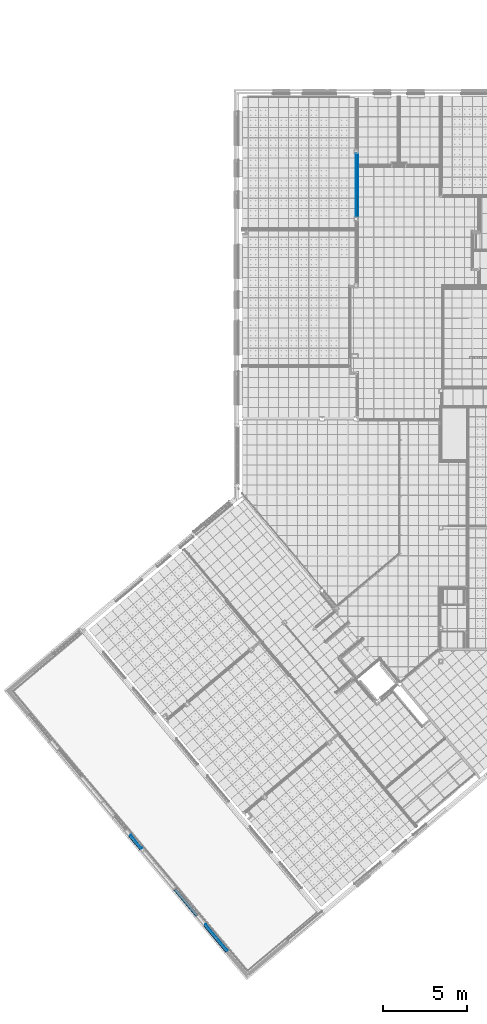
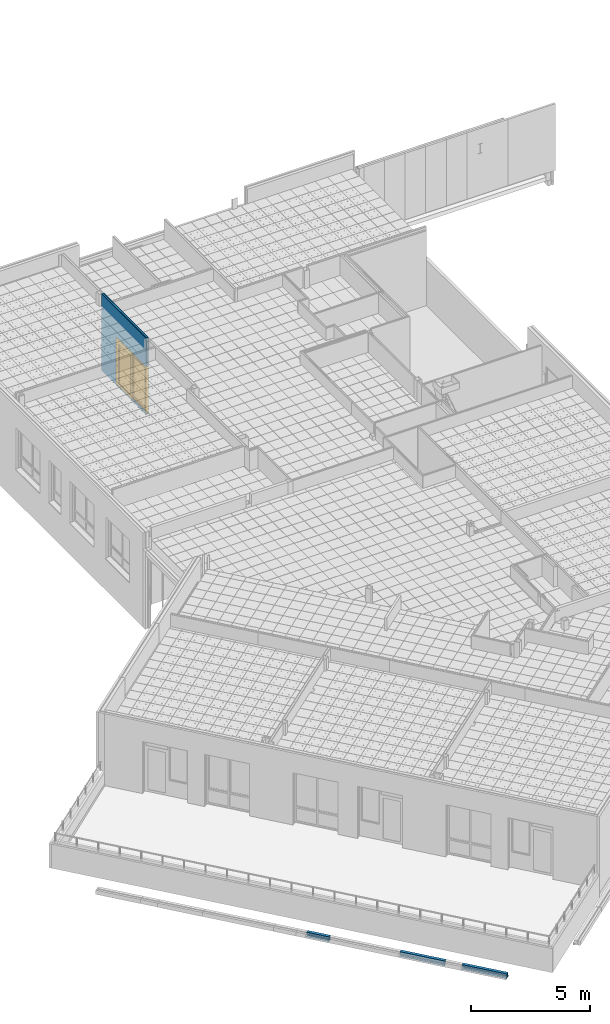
# One storey, part 20 of 321: 15 building element parts, 1 door, 1 opening, 4 elements without a shape of their own.
"""IFC2X3 building model written with IfcOpenShell, lengths in millimetres."""

from ifc_helpers import new_model, entity, si_unit, converted_unit, derived_unit, money_unit, direction, frame, origin_with_axes, place, context, subcontext, project, spatial, open_shell, faceted_brep, surface_model, source, transform, mapped, material, type_object, type_shapes, element, fill, aggregate, save


model = new_model("IFC2X3")

# Units and contexts
model_context = context("Model", 3, precision=0.01, world=origin_with_axes(), true_north=direction((0.0, 1.0)))
plan_context = context("Plan", 3, precision=0.01, world=origin_with_axes(), true_north=direction((0.0, 1.0)))
body_context = subcontext(model_context, "Body", "Model", "MODEL_VIEW")
ifc_project = project(units=[si_unit("LENGTHUNIT", "METRE", prefix="MILLI"), si_unit("AREAUNIT", "SQUARE_METRE"), si_unit("VOLUMEUNIT", "CUBIC_METRE"), converted_unit("PLANEANGLEUNIT", "DEGREE", entity("IfcPlaneAngleMeasure", 0.0174532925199), si_unit("PLANEANGLEUNIT", "RADIAN"), dimensions=[0, 0, 0, 0, 0, 0, 0]), money_unit("EUR"), converted_unit("TIMEUNIT", "Year", entity("IfcTimeMeasure", 31556926.0), si_unit("TIMEUNIT", "SECOND"), dimensions=[0, 0, 1, 0, 0, 0, 0]), si_unit("MASSUNIT", "GRAM", prefix="KILO"), si_unit("THERMODYNAMICTEMPERATUREUNIT", "DEGREE_CELSIUS"), si_unit("LUMINOUSINTENSITYUNIT", "LUMEN"), si_unit("ENERGYUNIT", "JOULE", prefix="MEGA"), derived_unit("THERMALCONDUCTANCEUNIT", [(si_unit("POWERUNIT", "WATT"), 1), (si_unit("LENGTHUNIT", "METRE"), -1), (si_unit("THERMODYNAMICTEMPERATUREUNIT", "KELVIN"), -1)]), derived_unit("SPECIFICHEATCAPACITYUNIT", [(si_unit("ENERGYUNIT", "JOULE"), 1), (si_unit("MASSUNIT", "GRAM", prefix="KILO"), -1), (si_unit("THERMODYNAMICTEMPERATUREUNIT", "KELVIN"), -1)]), derived_unit("MASSDENSITYUNIT", [(si_unit("MASSUNIT", "GRAM", prefix="KILO"), 1), (si_unit("VOLUMEUNIT", "CUBIC_METRE"), -1)])], contexts=[model_context, plan_context])

# Site, building, storey
site_placement = place(None, origin_with_axes())
site = spatial("IfcSite", under=ifc_project, at=site_placement, Name="Fortuinstraat Woensdrecht", CompositionType="ELEMENT")
building_placement = place(site_placement, origin_with_axes())
building = spatial("IfcBuilding", under=site, at=building_placement, Name="IKC Fortuna", CompositionType="ELEMENT")
storey_placement = place(building_placement, frame((0.0, 0.0, 4000.0), z_axis=(0.0, 0.0, 1.0), x_axis=(1.0, 0.0, 0.0)))
storey = spatial("IfcBuildingStorey", under=building, at=storey_placement, Name="01 eerste verdieping", CompositionType="ELEMENT", Elevation=4000.0)

# Door
door_style = type_object("IfcDoorStyle", Name="DSn 25", ConstructionType="NOTDEFINED", OperationType="USERDEFINED", ParameterTakesPrecedence=False, Sizeable=False)
shared_shape = source(origin_with_axes(), body_context, "Body", "SurfaceModel", [
    faceted_brep([(-1242.5, 0.0, 0.0), (-1175.5, 0.0, 0.0), (-1175.5, -139.0, 0.0), (-1242.5, -139.0, 0.0), (-1242.5, 0.0, 2300.0), (-1175.5, 0.0, 2300.0), (-1175.5, -139.0, 2300.0), (-1242.5, -139.0, 2300.0)], [[[0, 1, 2, 3]], [[0, 4, 5, 1]], [[1, 5, 6, 2]], [[3, 2, 6, 7]], [[4, 0, 3, 7]], [[5, 4, 7, 6]]]),
    faceted_brep([(1242.5, 0.0, 0.0), (1242.5, 0.0, 2300.0), (1242.5, -139.0, 2300.0), (1242.5, -139.0, 0.0), (1175.5, 0.0, 0.0), (1175.5, 0.0, 2300.0), (1175.5, -139.0, 2300.0), (1175.5, -139.0, 0.0)], [[[0, 1, 2, 3]], [[0, 4, 5, 1]], [[1, 5, 6, 2]], [[3, 2, 6, 7]], [[4, 0, 3, 7]], [[5, 4, 7, 6]]]),
    faceted_brep([(-1242.5, 0.0, 2367.0), (-1242.5, 0.0, 2300.0), (-1242.5, -139.0, 2300.0), (-1242.5, -139.0, 2367.0), (1242.5, 0.0, 2367.0), (1242.5, 0.0, 2300.0), (1175.5, 0.0, 2300.0), (-1175.5, 0.0, 2300.0), (-1175.5, -139.0, 2300.0), (1175.5, -139.0, 2300.0), (1242.5, -139.0, 2300.0), (1242.5, -139.0, 2367.0)], [[[0, 1, 2, 3]], [[0, 4, 5, 6, 7, 1]], [[1, 7, 8, 2]], [[3, 2, 8, 9, 10, 11]], [[4, 0, 3, 11]], [[5, 4, 11, 10]], [[6, 5, 10, 9]], [[7, 6, 9, 8]]]),
    faceted_brep([(1175.5, 0.0, 139.0), (1175.5, -64.5, 139.0), (1036.5, -64.5, 139.0), (1036.5, 0.0, 139.0), (1175.5, 0.0, 2161.0), (1175.5, -64.5, 2161.0), (1036.5, -64.5, 2161.0), (1036.5, 0.0, 2161.0)], [[[0, 1, 2, 3]], [[4, 5, 1, 0]], [[1, 5, 6, 2]], [[3, 2, 6, 7]], [[0, 3, 7, 4]], [[7, 6, 5, 4]]]),
    faceted_brep([(-69.5, 0.0, 139.0), (-69.5, -64.5, 139.0), (-69.5, -64.5, 2161.0), (-69.5, 0.0, 2161.0), (69.5, 0.0, 139.0), (69.5, -64.5, 139.0), (69.5, -64.5, 2161.0), (69.5, 0.0, 2161.0)], [[[0, 1, 2, 3]], [[4, 5, 1, 0]], [[1, 5, 6, 2]], [[3, 2, 6, 7]], [[0, 3, 7, 4]], [[7, 6, 5, 4]]]),
    faceted_brep([(1175.5, 0.0, 0.0), (1175.5, -64.5, 0.0), (-69.5, -64.5, 0.0), (-69.5, 0.0, 0.0), (1175.5, 0.0, 139.0), (1175.5, -64.5, 139.0), (1036.5, -64.5, 139.0), (69.5, -64.5, 139.0), (-69.5, -64.5, 139.0), (-69.5, 0.0, 139.0), (69.5, 0.0, 139.0), (1036.5, 0.0, 139.0)], [[[0, 1, 2, 3]], [[4, 5, 1, 0]], [[1, 5, 6, 7, 8, 2]], [[3, 2, 8, 9]], [[0, 3, 9, 10, 11, 4]], [[11, 6, 5, 4]], [[10, 7, 6, 11]], [[9, 8, 7, 10]]]),
    faceted_brep([(1175.5, 0.0, 2300.0), (1175.5, -64.5, 2300.0), (1175.5, -64.5, 2161.0), (1175.5, 0.0, 2161.0), (-69.5, 0.0, 2300.0), (-69.5, -64.5, 2300.0), (-69.5, -64.5, 2161.0), (69.5, -64.5, 2161.0), (1036.5, -64.5, 2161.0), (1036.5, 0.0, 2161.0), (69.5, 0.0, 2161.0), (-69.5, 0.0, 2161.0)], [[[0, 1, 2, 3]], [[4, 5, 1, 0]], [[1, 5, 6, 7, 8, 2]], [[3, 2, 8, 9]], [[0, 3, 9, 10, 11, 4]], [[11, 6, 5, 4]], [[10, 7, 6, 11]], [[9, 8, 7, 10]]]),
    surface_model("IfcShellBasedSurfaceModel", [(1036.5, -26.25, 139.0), (69.5, -26.25, 139.0), (69.5, -26.25, 2161.0), (1036.5, -26.25, 2161.0)], [open_shell([[[0, 1, 2, 3]]])]),
    surface_model("IfcShellBasedSurfaceModel", [(1036.5, -38.25, 139.0), (1036.5, -38.25, 2161.0), (69.5, -38.25, 2161.0), (69.5, -38.25, 139.0)], [open_shell([[[0, 1, 2, 3]]])]),
    faceted_brep([(-1110.5, -134.0, 965.0), (-1110.5, -134.0, 1035.0), (-1110.5, -144.0, 1035.0), (-1110.5, -144.0, 965.0), (-1140.5, -134.0, 965.0), (-1140.5, -134.0, 1035.0), (-1140.5, -144.0, 1035.0), (-1140.5, -144.0, 965.0)], [[[0, 1, 2, 3]], [[0, 4, 5, 1]], [[1, 5, 6, 2]], [[3, 2, 6, 7]], [[4, 0, 3, 7]], [[5, 4, 7, 6]]]),
    faceted_brep([(-1124.13436775, -144.0, 1006.86549696), (-1122.82121597, -144.0, 1006.46715673), (-1121.61100837, -144.0, 1005.82028729), (-1120.55025253, -144.0, 1004.94974747), (-1119.67971271, -144.0, 1003.88899163), (-1119.03284327, -144.0, 1002.67878403), (-1118.63450304, -144.0, 1001.36563225), (-1118.5, -144.0, 1000.0), (-1118.63450304, -144.0, 998.634367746), (-1119.03284327, -144.0, 997.321215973), (-1119.67971271, -144.0, 996.111008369), (-1120.55025253, -144.0, 995.050252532), (-1121.61100837, -144.0, 994.179712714), (-1122.82121597, -144.0, 993.532843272), (-1124.13436775, -144.0, 993.134503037), (-1125.5, -144.0, 993.0), (-1126.86563225, -144.0, 993.134503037), (-1128.17878403, -144.0, 993.532843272), (-1129.38899163, -144.0, 994.179712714), (-1130.44974747, -144.0, 995.050252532), (-1131.32028729, -144.0, 996.111008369), (-1131.96715673, -144.0, 997.321215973), (-1132.36549696, -144.0, 998.634367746), (-1132.5, -144.0, 1000.0), (-1132.36549696, -144.0, 1001.36563225), (-1131.96715673, -144.0, 1002.67878403), (-1131.32028729, -144.0, 1003.88899163), (-1130.44974747, -144.0, 1004.94974747), (-1129.38899163, -144.0, 1005.82028729), (-1128.17878403, -144.0, 1006.46715673), (-1126.86563225, -144.0, 1006.86549696), (-1125.5, -144.0, 1007.0), (-1124.13436775, -159.0, 1006.86549696), (-1122.82121597, -159.0, 1006.46715673), (-1121.61100837, -159.0, 1005.82028729), (-1120.55025253, -159.0, 1004.94974747), (-1119.67971271, -159.0, 1003.88899163), (-1119.03284327, -159.0, 1002.67878403), (-1118.63450304, -159.0, 1001.36563225), (-1118.5, -159.0, 1000.0), (-1118.63450304, -159.0, 998.634367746), (-1119.03284327, -159.0, 997.321215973), (-1119.67971271, -159.0, 996.111008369), (-1120.55025253, -159.0, 995.050252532), (-1121.61100837, -159.0, 994.179712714), (-1122.82121597, -159.0, 993.532843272), (-1124.13436775, -159.0, 993.134503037), (-1125.5, -159.0, 993.0), (-1126.86563225, -159.0, 993.134503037), (-1128.17878403, -159.0, 993.532843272), (-1129.38899163, -159.0, 994.179712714), (-1130.44974747, -159.0, 995.050252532), (-1131.32028729, -159.0, 996.111008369), (-1131.96715673, -159.0, 997.321215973), (-1132.36549696, -159.0, 998.634367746), (-1132.5, -159.0, 1000.0), (-1132.36549696, -159.0, 1001.36563225), (-1131.96715673, -159.0, 1002.67878403), (-1131.32028729, -159.0, 1003.88899163), (-1130.44974747, -159.0, 1004.94974747), (-1129.38899163, -159.0, 1005.82028729), (-1128.17878403, -159.0, 1006.46715673), (-1126.86563225, -159.0, 1006.86549696), (-1125.5, -159.0, 1007.0)], [[[0, 1, 2, 3, 4, 5, 6, 7, 8, 9, 10, 11, 12, 13, 14, 15, 16, 17, 18, 19, 20, 21, 22, 23, 24, 25, 26, 27, 28, 29, 30, 31]], [[1, 0, 32, 33]], [[2, 1, 33, 34]], [[3, 2, 34, 35]], [[4, 3, 35, 36]], [[5, 4, 36, 37]], [[6, 5, 37, 38]], [[7, 6, 38, 39]], [[8, 7, 39, 40]], [[9, 8, 40, 41]], [[10, 9, 41, 42]], [[11, 10, 42, 43]], [[12, 11, 43, 44]], [[13, 12, 44, 45]], [[14, 13, 45, 46]], [[15, 14, 46, 47]], [[16, 15, 47, 48]], [[17, 16, 48, 49]], [[18, 17, 49, 50]], [[19, 18, 50, 51]], [[20, 19, 51, 52]], [[21, 20, 52, 53]], [[22, 21, 53, 54]], [[23, 22, 54, 55]], [[24, 23, 55, 56]], [[25, 24, 56, 57]], [[26, 25, 57, 58]], [[27, 26, 58, 59]], [[28, 27, 59, 60]], [[29, 28, 60, 61]], [[30, 29, 61, 62]], [[31, 30, 62, 63]], [[0, 31, 63, 32]], [[32, 63, 62, 61, 60, 59, 58, 57, 56, 55, 54, 53, 52, 51, 50, 49, 48, 47, 46, 45, 44, 43, 42, 41, 40, 39, 38, 37, 36, 35, 34, 33]]]),
    faceted_brep([(-1115.5, -159.0, 990.0), (-1115.5, -159.0, 1010.0), (-1115.5, -169.0, 1010.0), (-1115.5, -169.0, 990.0), (-1135.5, -159.0, 990.0), (-1135.5, -159.0, 1010.0), (-1135.5, -169.0, 1010.0), (-1135.5, -169.0, 990.0)], [[[0, 1, 2, 3]], [[0, 4, 5, 1]], [[1, 5, 6, 2]], [[3, 2, 6, 7]], [[4, 0, 3, 7]], [[5, 4, 7, 6]]]),
    faceted_brep([(-1115.5, -169.0, 990.0), (-1135.5, -169.0, 990.0), (-1130.5, -167.0, 965.0), (-1120.5, -167.0, 965.0), (-1115.5, -159.0, 990.0), (-1135.5, -159.0, 990.0), (-1130.5, -163.0, 965.0), (-1120.5, -163.0, 965.0)], [[[0, 1, 2, 3]], [[0, 4, 5, 1]], [[1, 5, 6, 2]], [[3, 2, 6, 7]], [[4, 0, 3, 7]], [[5, 4, 7, 6]]]),
    faceted_brep([(-1115.5, -169.0, 1010.0), (-1120.5, -167.0, 1035.0), (-1130.5, -167.0, 1035.0), (-1135.5, -169.0, 1010.0), (-1115.5, -159.0, 1010.0), (-1120.5, -163.0, 1035.0), (-1130.5, -163.0, 1035.0), (-1135.5, -159.0, 1010.0)], [[[0, 1, 2, 3]], [[4, 5, 1, 0]], [[1, 5, 6, 2]], [[3, 2, 6, 7]], [[0, 3, 7, 4]], [[7, 6, 5, 4]]]),
    faceted_brep([(-1110.5, -69.5, 965.0), (-1110.5, -59.5, 965.0), (-1110.5, -59.5, 1035.0), (-1110.5, -69.5, 1035.0), (-1140.5, -69.5, 965.0), (-1140.5, -59.5, 965.0), (-1140.5, -59.5, 1035.0), (-1140.5, -69.5, 1035.0)], [[[0, 1, 2, 3]], [[4, 5, 1, 0]], [[1, 5, 6, 2]], [[3, 2, 6, 7]], [[0, 3, 7, 4]], [[7, 6, 5, 4]]]),
    faceted_brep([(-1124.13436775, -59.5, 1006.86549696), (-1125.5, -59.5, 1007.0), (-1126.86563225, -59.5, 1006.86549696), (-1128.17878403, -59.5, 1006.46715673), (-1129.38899163, -59.5, 1005.82028729), (-1130.44974747, -59.5, 1004.94974747), (-1131.32028729, -59.5, 1003.88899163), (-1131.96715673, -59.5, 1002.67878403), (-1132.36549696, -59.5, 1001.36563225), (-1132.5, -59.5, 1000.0), (-1132.36549696, -59.5, 998.634367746), (-1131.96715673, -59.5, 997.321215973), (-1131.32028729, -59.5, 996.111008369), (-1130.44974747, -59.5, 995.050252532), (-1129.38899163, -59.5, 994.179712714), (-1128.17878403, -59.5, 993.532843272), (-1126.86563225, -59.5, 993.134503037), (-1125.5, -59.5, 993.0), (-1124.13436775, -59.5, 993.134503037), (-1122.82121597, -59.5, 993.532843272), (-1121.61100837, -59.5, 994.179712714), (-1120.55025253, -59.5, 995.050252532), (-1119.67971271, -59.5, 996.111008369), (-1119.03284327, -59.5, 997.321215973), (-1118.63450304, -59.5, 998.634367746), (-1118.5, -59.5, 1000.0), (-1118.63450304, -59.5, 1001.36563225), (-1119.03284327, -59.5, 1002.67878403), (-1119.67971271, -59.5, 1003.88899163), (-1120.55025253, -59.5, 1004.94974747), (-1121.61100837, -59.5, 1005.82028729), (-1122.82121597, -59.5, 1006.46715673), (-1124.13436775, -44.5, 1006.86549696), (-1125.5, -44.5, 1007.0), (-1126.86563225, -44.5, 1006.86549696), (-1128.17878403, -44.5, 1006.46715673), (-1129.38899163, -44.5, 1005.82028729), (-1130.44974747, -44.5, 1004.94974747), (-1131.32028729, -44.5, 1003.88899163), (-1131.96715673, -44.5, 1002.67878403), (-1132.36549696, -44.5, 1001.36563225), (-1132.5, -44.5, 1000.0), (-1132.36549696, -44.5, 998.634367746), (-1131.96715673, -44.5, 997.321215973), (-1131.32028729, -44.5, 996.111008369), (-1130.44974747, -44.5, 995.050252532), (-1129.38899163, -44.5, 994.179712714), (-1128.17878403, -44.5, 993.532843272), (-1126.86563225, -44.5, 993.134503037), (-1125.5, -44.5, 993.0), (-1124.13436775, -44.5, 993.134503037), (-1122.82121597, -44.5, 993.532843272), (-1121.61100837, -44.5, 994.179712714), (-1120.55025253, -44.5, 995.050252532), (-1119.67971271, -44.5, 996.111008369), (-1119.03284327, -44.5, 997.321215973), (-1118.63450304, -44.5, 998.634367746), (-1118.5, -44.5, 1000.0), (-1118.63450304, -44.5, 1001.36563225), (-1119.03284327, -44.5, 1002.67878403), (-1119.67971271, -44.5, 1003.88899163), (-1120.55025253, -44.5, 1004.94974747), (-1121.61100837, -44.5, 1005.82028729), (-1122.82121597, -44.5, 1006.46715673)], [[[0, 1, 2, 3, 4, 5, 6, 7, 8, 9, 10, 11, 12, 13, 14, 15, 16, 17, 18, 19, 20, 21, 22, 23, 24, 25, 26, 27, 28, 29, 30, 31]], [[0, 32, 33, 1]], [[1, 33, 34, 2]], [[2, 34, 35, 3]], [[3, 35, 36, 4]], [[4, 36, 37, 5]], [[5, 37, 38, 6]], [[6, 38, 39, 7]], [[7, 39, 40, 8]], [[8, 40, 41, 9]], [[9, 41, 42, 10]], [[10, 42, 43, 11]], [[11, 43, 44, 12]], [[12, 44, 45, 13]], [[13, 45, 46, 14]], [[14, 46, 47, 15]], [[15, 47, 48, 16]], [[16, 48, 49, 17]], [[17, 49, 50, 18]], [[18, 50, 51, 19]], [[19, 51, 52, 20]], [[20, 52, 53, 21]], [[21, 53, 54, 22]], [[22, 54, 55, 23]], [[23, 55, 56, 24]], [[24, 56, 57, 25]], [[25, 57, 58, 26]], [[26, 58, 59, 27]], [[27, 59, 60, 28]], [[28, 60, 61, 29]], [[29, 61, 62, 30]], [[30, 62, 63, 31]], [[31, 63, 32, 0]], [[32, 63, 62, 61, 60, 59, 58, 57, 56, 55, 54, 53, 52, 51, 50, 49, 48, 47, 46, 45, 44, 43, 42, 41, 40, 39, 38, 37, 36, 35, 34, 33]]]),
    faceted_brep([(-1115.5, -44.5, 990.0), (-1115.5, -34.5, 990.0), (-1115.5, -34.5, 1010.0), (-1115.5, -44.5, 1010.0), (-1135.5, -44.5, 990.0), (-1135.5, -34.5, 990.0), (-1135.5, -34.5, 1010.0), (-1135.5, -44.5, 1010.0)], [[[0, 1, 2, 3]], [[4, 5, 1, 0]], [[1, 5, 6, 2]], [[3, 2, 6, 7]], [[0, 3, 7, 4]], [[7, 6, 5, 4]]]),
    faceted_brep([(-1115.5, -34.5, 990.0), (-1120.5, -36.5, 965.0), (-1130.5, -36.5, 965.0), (-1135.5, -34.5, 990.0), (-1115.5, -44.5, 990.0), (-1120.5, -40.5, 965.0), (-1130.5, -40.5, 965.0), (-1135.5, -44.5, 990.0)], [[[0, 1, 2, 3]], [[4, 5, 1, 0]], [[1, 5, 6, 2]], [[3, 2, 6, 7]], [[0, 3, 7, 4]], [[7, 6, 5, 4]]]),
    faceted_brep([(-1115.5, -34.5, 1010.0), (-1135.5, -34.5, 1010.0), (-1130.5, -36.5, 1035.0), (-1120.5, -36.5, 1035.0), (-1115.5, -44.5, 1010.0), (-1135.5, -44.5, 1010.0), (-1130.5, -40.5, 1035.0), (-1120.5, -40.5, 1035.0)], [[[0, 1, 2, 3]], [[0, 4, 5, 1]], [[1, 5, 6, 2]], [[3, 2, 6, 7]], [[4, 0, 3, 7]], [[5, 4, 7, 6]]]),
    faceted_brep([(69.5, -69.5, 139.0), (69.5, -134.0, 139.0), (-69.5, -134.0, 139.0), (-69.5, -69.5, 139.0), (69.5, -69.5, 2161.0), (69.5, -134.0, 2161.0), (-69.5, -134.0, 2161.0), (-69.5, -69.5, 2161.0)], [[[0, 1, 2, 3]], [[4, 5, 1, 0]], [[1, 5, 6, 2]], [[3, 2, 6, 7]], [[0, 3, 7, 4]], [[7, 6, 5, 4]]]),
    faceted_brep([(-1175.5, -69.5, 139.0), (-1175.5, -134.0, 139.0), (-1175.5, -134.0, 2161.0), (-1175.5, -69.5, 2161.0), (-1036.5, -69.5, 139.0), (-1036.5, -134.0, 139.0), (-1036.5, -134.0, 2161.0), (-1036.5, -69.5, 2161.0)], [[[0, 1, 2, 3]], [[4, 5, 1, 0]], [[1, 5, 6, 2]], [[3, 2, 6, 7]], [[0, 3, 7, 4]], [[7, 6, 5, 4]]]),
    faceted_brep([(69.5, -69.5, 0.0), (69.5, -134.0, 0.0), (-1175.5, -134.0, 0.0), (-1175.5, -69.5, 0.0), (69.5, -69.5, 139.0), (69.5, -134.0, 139.0), (-69.5, -134.0, 139.0), (-1036.5, -134.0, 139.0), (-1175.5, -134.0, 139.0), (-1175.5, -69.5, 139.0), (-1036.5, -69.5, 139.0), (-69.5, -69.5, 139.0)], [[[0, 1, 2, 3]], [[4, 5, 1, 0]], [[1, 5, 6, 7, 8, 2]], [[3, 2, 8, 9]], [[0, 3, 9, 10, 11, 4]], [[11, 6, 5, 4]], [[10, 7, 6, 11]], [[9, 8, 7, 10]]]),
    faceted_brep([(69.5, -69.5, 2300.0), (69.5, -134.0, 2300.0), (69.5, -134.0, 2161.0), (69.5, -69.5, 2161.0), (-1175.5, -69.5, 2300.0), (-1175.5, -134.0, 2300.0), (-1175.5, -134.0, 2161.0), (-1036.5, -134.0, 2161.0), (-69.5, -134.0, 2161.0), (-69.5, -69.5, 2161.0), (-1036.5, -69.5, 2161.0), (-1175.5, -69.5, 2161.0)], [[[0, 1, 2, 3]], [[4, 5, 1, 0]], [[1, 5, 6, 7, 8, 2]], [[3, 2, 8, 9]], [[0, 3, 9, 10, 11, 4]], [[11, 6, 5, 4]], [[10, 7, 6, 11]], [[9, 8, 7, 10]]]),
    surface_model("IfcShellBasedSurfaceModel", [(-69.5, -95.75, 139.0), (-1036.5, -95.75, 139.0), (-1036.5, -95.75, 2161.0), (-69.5, -95.75, 2161.0)], [open_shell([[[0, 1, 2, 3]]])]),
    surface_model("IfcShellBasedSurfaceModel", [(-69.5, -107.75, 139.0), (-69.5, -107.75, 2161.0), (-1036.5, -107.75, 2161.0), (-1036.5, -107.75, 139.0)], [open_shell([[[0, 1, 2, 3]]])]),
])
type_shapes(door_style, [shared_shape])
wall_placement = place(storey_placement, frame((20624.4349765, 28189.7966283, -90.0), z_axis=(0.0, 0.0, 1.0), x_axis=(0.0, 1.0, 0.0)))
opening_placement = place(wall_placement, frame((1242.5, 0.0, 90.0), z_axis=(0.0, 0.0, 1.0), x_axis=(1.0, 0.0, 0.0)))
door_placement = place(opening_placement, frame((1242.5, 0.0, 0.0), z_axis=(0.0, 0.0, 1.0), x_axis=(-1.0, 0.0, 0.0)))
door = element("IfcDoor", 1, at=door_placement, inside=storey, type_object=door_style, Name="32_Deur_h.03", ObjectType="DOOR", OverallHeight=2367.0, OverallWidth=2485.0, context=body_context, shape_type="MappedRepresentation", body=[
    mapped(shared_shape, transform((1242.5, 62.5, 0.0))),
])

# Wall, opening
wall_type = type_object("IfcWallType", Name="MS125 2.75.2A 125", PredefinedType="NOTDEFINED")
wall = element("IfcWall", 2, at=wall_placement, inside=storey, type_object=wall_type, Name="22_Wand_Binnenwand")
opening = element("IfcOpeningElement", 3, at=opening_placement, cuts=wall, Name="32_Deur_h.03", context=body_context, shape_type="Brep", body=[
    faceted_brep([(-1242.5, 125.0, 2367.0), (-1242.5, 125.0, 0.0), (-1242.5, -250.0, 0.0), (-1242.5, -250.0, 2367.0), (1242.5, 125.0, 2367.0), (1242.5, 125.0, 0.0), (1242.5, -250.0, 0.0), (1242.5, -250.0, 2367.0)], [[[0, 1, 2, 3]], [[0, 4, 5, 1]], [[1, 5, 6, 2]], [[3, 2, 6, 7]], [[4, 0, 3, 7]], [[5, 4, 7, 6]]]),
])

fill(opening, door)

# Building element part
ifc_material_1 = material(Name="Gipsplaat")
building_element_part_1_placement = place(wall_placement, origin_with_axes())
building_element_part_1 = element("IfcBuildingElementPart", 4, at=building_element_part_1_placement, material=ifc_material_1, Name="Gipsplaat", context=body_context, shape_type="Brep", body=[
    faceted_brep([(2485.0, 50.0, 90.0), (0.0, 50.0, 90.0), (0.0, 50.0, 0.0), (3755.0, 50.0, 0.0), (3755.0, 50.0, 3930.0), (0.0, 50.0, 3930.0), (0.0, 50.0, 2457.0), (2485.0, 50.0, 2457.0), (2485.0, 62.5, 90.0), (0.0, 62.5, 90.0), (0.0, 62.5, 0.0), (3755.0, 62.5, 0.0), (3755.0, 62.5, 3930.0), (0.0, 62.5, 3930.0), (0.0, 62.5, 2457.0), (2485.0, 62.5, 2457.0)], [[[0, 1, 2, 3, 4, 5, 6, 7]], [[1, 0, 8, 9]], [[1, 9, 10, 2]], [[3, 2, 10, 11]], [[3, 11, 12, 4]], [[12, 13, 5, 4]], [[14, 6, 5, 13]], [[7, 6, 14, 15]], [[0, 7, 15, 8]], [[15, 14, 13, 12, 11, 10, 9, 8]]]),
])

building_element_part_2_placement = place(wall_placement, origin_with_axes())
building_element_part_2 = element("IfcBuildingElementPart", 5, at=building_element_part_2_placement, material=ifc_material_1, Name="Gipsplaat", context=body_context, shape_type="Brep", body=[
    faceted_brep([(2485.0, 37.5, 90.0), (0.0, 37.5, 90.0), (0.0, 37.5, 0.0), (3755.0, 37.5, 0.0), (3755.0, 37.5, 3930.0), (0.0, 37.5, 3930.0), (0.0, 37.5, 2457.0), (2485.0, 37.5, 2457.0), (2485.0, 50.0, 90.0), (0.0, 50.0, 90.0), (0.0, 50.0, 0.0), (3755.0, 50.0, 0.0), (3755.0, 50.0, 3930.0), (0.0, 50.0, 3930.0), (0.0, 50.0, 2457.0), (2485.0, 50.0, 2457.0)], [[[0, 1, 2, 3, 4, 5, 6, 7]], [[1, 0, 8, 9]], [[1, 9, 10, 2]], [[3, 2, 10, 11]], [[3, 11, 12, 4]], [[12, 13, 5, 4]], [[14, 6, 5, 13]], [[7, 6, 14, 15]], [[0, 7, 15, 8]], [[15, 14, 13, 12, 11, 10, 9, 8]]]),
])

ifc_material_2 = material(Name="Isolatie - Steenwol LSW")
building_element_part_3_placement = place(wall_placement, origin_with_axes())
building_element_part_3 = element("IfcBuildingElementPart", 6, at=building_element_part_3_placement, material=ifc_material_2, Name="Isolatie - Steenwol LSW", context=body_context, shape_type="Brep", body=[
    faceted_brep([(2485.0, -37.5, 90.0), (0.0, -37.5, 90.0), (0.0, -37.5, 0.0), (3755.0, -37.5, 0.0), (3755.0, -37.5, 3930.0), (0.0, -37.5, 3930.0), (0.0, -37.5, 2457.0), (2485.0, -37.5, 2457.0), (2485.0, 37.5, 90.0), (0.0, 37.5, 90.0), (0.0, 37.5, 0.0), (3755.0, 37.5, 0.0), (3755.0, 37.5, 3930.0), (0.0, 37.5, 3930.0), (0.0, 37.5, 2457.0), (2485.0, 37.5, 2457.0)], [[[0, 1, 2, 3, 4, 5, 6, 7]], [[1, 0, 8, 9]], [[1, 9, 10, 2]], [[3, 2, 10, 11]], [[3, 11, 12, 4]], [[12, 13, 5, 4]], [[14, 6, 5, 13]], [[7, 6, 14, 15]], [[0, 7, 15, 8]], [[15, 14, 13, 12, 11, 10, 9, 8]]]),
])

building_element_part_4_placement = place(wall_placement, origin_with_axes())
building_element_part_4 = element("IfcBuildingElementPart", 7, at=building_element_part_4_placement, material=ifc_material_1, Name="Gipsplaat", context=body_context, shape_type="Brep", body=[
    faceted_brep([(2485.0, -50.0, 90.0), (0.0, -50.0, 90.0), (0.0, -50.0, 0.0), (3755.0, -50.0, 0.0), (3755.0, -50.0, 3930.0), (0.0, -50.0, 3930.0), (0.0, -50.0, 2457.0), (2485.0, -50.0, 2457.0), (2485.0, -37.5, 90.0), (0.0, -37.5, 90.0), (0.0, -37.5, 0.0), (3755.0, -37.5, 0.0), (3755.0, -37.5, 3930.0), (0.0, -37.5, 3930.0), (0.0, -37.5, 2457.0), (2485.0, -37.5, 2457.0)], [[[0, 1, 2, 3, 4, 5, 6, 7]], [[1, 0, 8, 9]], [[1, 9, 10, 2]], [[3, 2, 10, 11]], [[3, 11, 12, 4]], [[12, 13, 5, 4]], [[14, 6, 5, 13]], [[7, 6, 14, 15]], [[0, 7, 15, 8]], [[15, 14, 13, 12, 11, 10, 9, 8]]]),
])

building_element_part_5_placement = place(wall_placement, origin_with_axes())
building_element_part_5 = element("IfcBuildingElementPart", 8, at=building_element_part_5_placement, material=ifc_material_1, Name="Gipsplaat", context=body_context, shape_type="Brep", body=[
    faceted_brep([(2485.0, -62.5, 90.0), (0.0, -62.5, 90.0), (0.0, -62.5, 0.0), (3755.0, -62.5, 0.0), (3755.0, -62.5, 3930.0), (0.0, -62.5, 3930.0), (0.0, -62.5, 2457.0), (2485.0, -62.5, 2457.0), (2485.0, -50.0, 90.0), (0.0, -50.0, 90.0), (0.0, -50.0, 0.0), (3755.0, -50.0, 0.0), (3755.0, -50.0, 3930.0), (0.0, -50.0, 3930.0), (0.0, -50.0, 2457.0), (2485.0, -50.0, 2457.0)], [[[0, 1, 2, 3, 4, 5, 6, 7]], [[1, 0, 8, 9]], [[1, 9, 10, 2]], [[3, 2, 10, 11]], [[3, 11, 12, 4]], [[12, 13, 5, 4]], [[14, 6, 5, 13]], [[7, 6, 14, 15]], [[0, 7, 15, 8]], [[15, 14, 13, 12, 11, 10, 9, 8]]]),
])

aggregate(wall, [building_element_part_1, building_element_part_2, building_element_part_3, building_element_part_4, building_element_part_5])

# Covering, building element parts
covering_type = type_object("IfcCoveringType", Name="41 Latei MW rollaag 280 x 227", PredefinedType="NOTDEFINED")
covering_1_placement = place(storey_placement, frame((12830.7827725, -15508.9328007, 237.5), z_axis=(0.0, 0.0, 1.0), x_axis=(-0.642787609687, 0.766044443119, 0.0)))
covering_1 = element("IfcCovering", 9, at=covering_1_placement, inside=storey, type_object=covering_type, Name="41_Afwerking_Latei + rollaag", PredefinedType="NOTDEFINED")
ifc_material_3 = material(Name="Metaal - Staal AFW")
building_element_part_6_placement = place(covering_1_placement, origin_with_axes())
building_element_part_6 = element("IfcBuildingElementPart", 10, at=building_element_part_6_placement, material=ifc_material_3, Name="Metaal - Staal AFW", context=body_context, shape_type="Brep", body=[
    faceted_brep([(2010.0, 29.9999999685, 4.0), (0.0, 29.9999999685, 4.0), (0.0, -58.0, 4.0), (2010.0, -58.0, 4.0), (0.0, 29.9999999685, 2.5), (2010.0, 29.9999999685, 2.5), (0.0, 32.0, 2.5), (0.0, 32.0, 0.0), (0.0, -58.0, 0.0), (2010.0, -58.0, 0.0), (2010.0, 32.0, 0.0), (2010.0, 32.0, 2.5)], [[[0, 1, 2, 3]], [[4, 1, 0, 5]], [[4, 6, 7, 8, 2, 1]], [[8, 9, 3, 2]], [[5, 0, 3, 9, 10, 11]], [[6, 4, 5, 11]], [[6, 11, 10, 7]], [[7, 10, 9, 8]]]),
])
ifc_material_4 = material(Name="ALG - ISOLATIE")
building_element_part_7_placement = place(covering_1_placement, origin_with_axes())
building_element_part_7 = element("IfcBuildingElementPart", 11, at=building_element_part_7_placement, material=ifc_material_4, Name="ALG - ISOLATIE", context=body_context, shape_type="Brep", body=[
    faceted_brep([(0.0, -140.0, 53.0), (2010.0, -140.0, 53.0), (2010.0, -140.0, 210.0), (0.0, -140.0, 210.0), (0.0, -83.9999988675, 53.0000013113), (2010.0, -83.9999988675, 53.0000013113), (2010.0, 0.0, 53.0), (2010.0, 0.0, 210.0), (0.0, 0.0, 210.0), (0.0, 0.0, 53.0)], [[[0, 1, 2, 3]], [[4, 5, 1, 0]], [[2, 1, 5, 6, 7]], [[3, 2, 7, 8]], [[4, 0, 3, 8, 9]], [[9, 6, 5, 4]], [[8, 7, 6, 9]]]),
])
ifc_material_5 = material(Name="Hout AFW")
building_element_part_8_placement = place(covering_1_placement, origin_with_axes())
building_element_part_8 = element("IfcBuildingElementPart", 12, at=building_element_part_8_placement, material=ifc_material_5, Name="Hout AFW", context=body_context, shape_type="Brep", body=[
    faceted_brep([(0.0, -127.999998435, 53.0000013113), (2010.0, -127.999998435, 53.0000013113), (2010.0, -83.9999988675, 53.0000013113), (0.0, -83.9999988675, 53.0000013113), (0.0, -127.999998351, -1.28576260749e-07), (2010.0, -127.999998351, -1.28576260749e-07), (2010.0, -127.999998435, -17.0), (2010.0, -83.9999988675, -17.0), (0.0, -83.9999988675, -17.0), (0.0, -127.999998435, -17.0)], [[[0, 1, 2, 3]], [[4, 5, 1, 0]], [[2, 1, 5, 6, 7]], [[3, 2, 7, 8]], [[4, 0, 3, 8, 9]], [[9, 6, 5, 4]], [[8, 7, 6, 9]]]),
])
ifc_material_6 = material(Name="Isolatie - PUR gespoten")
building_element_part_9_placement = place(covering_1_placement, origin_with_axes())
building_element_part_9 = element("IfcBuildingElementPart", 13, at=building_element_part_9_placement, material=ifc_material_6, Name="Isolatie - PUR gespoten", context=body_context, shape_type="Brep", body=[
    faceted_brep([(0.0, -139.999999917, 53.0000002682), (2010.0, -139.999999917, 53.0000002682), (2010.0, -127.999998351, 53.0000013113), (0.0, -127.999998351, 53.0000013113), (0.0, -139.999999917, -1.28576260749e-07), (2010.0, -139.999999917, -1.28576260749e-07), (2010.0, -127.999998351, -1.28576260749e-07), (0.0, -127.999998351, -1.28576260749e-07)], [[[0, 1, 2, 3]], [[4, 5, 1, 0]], [[2, 1, 5, 6]], [[3, 2, 6, 7]], [[4, 0, 3, 7]], [[7, 6, 5, 4]]]),
])
aggregate(covering_1, [building_element_part_6, building_element_part_7, building_element_part_8, building_element_part_9])

covering_2_placement = place(storey_placement, frame((11050.2610804, -13386.9896774, 237.5), z_axis=(0.0, 0.0, 1.0), x_axis=(-0.642787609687, 0.766044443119, 0.0)))
covering_2 = element("IfcCovering", 14, at=covering_2_placement, inside=storey, type_object=covering_type, Name="41_Afwerking_Latei + rollaag", PredefinedType="NOTDEFINED")
building_element_part_10_placement = place(covering_2_placement, origin_with_axes())
building_element_part_10 = element("IfcBuildingElementPart", 15, at=building_element_part_10_placement, material=ifc_material_3, Name="Metaal - Staal AFW", context=body_context, shape_type="Brep", body=[
    faceted_brep([(2010.0, 29.9999999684, 4.0), (0.0, 29.9999999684, 4.0), (0.0, -58.0, 4.0), (2010.0, -58.0, 4.0), (0.0, 29.9999999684, 2.5), (2010.0, 29.9999999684, 2.5), (0.0, 32.0, 2.5), (0.0, 32.0, 0.0), (0.0, -58.0, 0.0), (2010.0, -58.0, 0.0), (2010.0, 32.0, 0.0), (2010.0, 32.0, 2.5)], [[[0, 1, 2, 3]], [[4, 1, 0, 5]], [[4, 6, 7, 8, 2, 1]], [[8, 9, 3, 2]], [[5, 0, 3, 9, 10, 11]], [[6, 4, 5, 11]], [[6, 11, 10, 7]], [[7, 10, 9, 8]]]),
])
building_element_part_11_placement = place(covering_2_placement, origin_with_axes())
building_element_part_11 = element("IfcBuildingElementPart", 16, at=building_element_part_11_placement, material=ifc_material_4, Name="ALG - ISOLATIE", context=body_context, shape_type="Brep", body=[
    faceted_brep([(0.0, -140.0, 53.0), (2010.0, -140.0, 53.0), (2010.0, -140.0, 210.0), (0.0, -140.0, 210.0), (0.0, -83.9999988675, 53.0000013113), (2010.0, -83.9999988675, 53.0000013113), (2010.0, 0.0, 53.0), (2010.0, 0.0, 210.0), (0.0, 0.0, 210.0), (0.0, 0.0, 53.0)], [[[0, 1, 2, 3]], [[4, 5, 1, 0]], [[2, 1, 5, 6, 7]], [[3, 2, 7, 8]], [[4, 0, 3, 8, 9]], [[9, 6, 5, 4]], [[8, 7, 6, 9]]]),
])
aggregate(covering_2, [building_element_part_10, building_element_part_11])

covering_3_placement = place(storey_placement, frame((7727.69195243, -9427.30598253, 237.5), z_axis=(0.0, 0.0, 1.0), x_axis=(-0.642787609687, 0.766044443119, 0.0)))
covering_3 = element("IfcCovering", 17, at=covering_3_placement, inside=storey, type_object=covering_type, Name="41_Afwerking_Latei + rollaag", PredefinedType="NOTDEFINED")
building_element_part_12_placement = place(covering_3_placement, origin_with_axes())
building_element_part_12 = element("IfcBuildingElementPart", 18, at=building_element_part_12_placement, material=ifc_material_3, Name="Metaal - Staal AFW", context=body_context, shape_type="Brep", body=[
    faceted_brep([(1010.0, 29.9999999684, 4.0), (0.0, 29.9999999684, 4.0), (0.0, -58.0, 4.0), (1010.0, -58.0, 4.0), (0.0, 29.9999999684, 2.5), (1010.0, 29.9999999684, 2.5), (0.0, 32.0, 2.5), (0.0, 32.0, 0.0), (0.0, -58.0, 0.0), (1010.0, -58.0, 0.0), (1010.0, 32.0, 0.0), (1010.0, 32.0, 2.5)], [[[0, 1, 2, 3]], [[4, 1, 0, 5]], [[4, 6, 7, 8, 2, 1]], [[8, 9, 3, 2]], [[5, 0, 3, 9, 10, 11]], [[6, 4, 5, 11]], [[6, 11, 10, 7]], [[7, 10, 9, 8]]]),
])
building_element_part_13_placement = place(covering_3_placement, origin_with_axes())
building_element_part_13 = element("IfcBuildingElementPart", 19, at=building_element_part_13_placement, material=ifc_material_4, Name="ALG - ISOLATIE", context=body_context, shape_type="Brep", body=[
    faceted_brep([(0.0, -140.0, 53.0), (1010.0, -140.0, 53.0), (1010.0, -140.0, 210.0), (0.0, -140.0, 210.0), (0.0, -83.9999988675, 53.0000013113), (1010.0, -83.9999988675, 53.0000013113), (1010.0, 0.0, 53.0), (1010.0, 0.0, 210.0), (0.0, 0.0, 210.0), (0.0, 0.0, 53.0)], [[[0, 1, 2, 3]], [[4, 5, 1, 0]], [[2, 1, 5, 6, 7]], [[3, 2, 7, 8]], [[4, 0, 3, 8, 9]], [[9, 6, 5, 4]], [[8, 7, 6, 9]]]),
])
building_element_part_14_placement = place(covering_3_placement, origin_with_axes())
building_element_part_14 = element("IfcBuildingElementPart", 20, at=building_element_part_14_placement, material=ifc_material_5, Name="Hout AFW", context=body_context, shape_type="Brep", body=[
    faceted_brep([(0.0, -127.999998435, 53.0000013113), (1010.0, -127.999998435, 53.0000013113), (1010.0, -83.9999988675, 53.0000013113), (0.0, -83.9999988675, 53.0000013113), (0.0, -127.999998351, -1.28576260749e-07), (1010.0, -127.999998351, -1.28576260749e-07), (1010.0, -127.999998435, -17.0), (1010.0, -83.9999988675, -17.0), (0.0, -83.9999988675, -17.0), (0.0, -127.999998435, -17.0)], [[[0, 1, 2, 3]], [[4, 5, 1, 0]], [[2, 1, 5, 6, 7]], [[3, 2, 7, 8]], [[4, 0, 3, 8, 9]], [[9, 6, 5, 4]], [[8, 7, 6, 9]]]),
])
building_element_part_15_placement = place(covering_3_placement, origin_with_axes())
building_element_part_15 = element("IfcBuildingElementPart", 21, at=building_element_part_15_placement, material=ifc_material_6, Name="Isolatie - PUR gespoten", context=body_context, shape_type="Brep", body=[
    faceted_brep([(0.0, -139.999999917, 53.0000002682), (1010.0, -139.999999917, 53.0000002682), (1010.0, -127.999998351, 53.0000013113), (0.0, -127.999998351, 53.0000013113), (0.0, -139.999999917, -1.28576260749e-07), (1010.0, -139.999999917, -1.28576260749e-07), (1010.0, -127.999998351, -1.28576260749e-07), (0.0, -127.999998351, -1.28576260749e-07)], [[[0, 1, 2, 3]], [[4, 5, 1, 0]], [[2, 1, 5, 6]], [[3, 2, 6, 7]], [[4, 0, 3, 7]], [[7, 6, 5, 4]]]),
])
aggregate(covering_3, [building_element_part_12, building_element_part_13, building_element_part_14, building_element_part_15])

save(model, "model.ifc")
